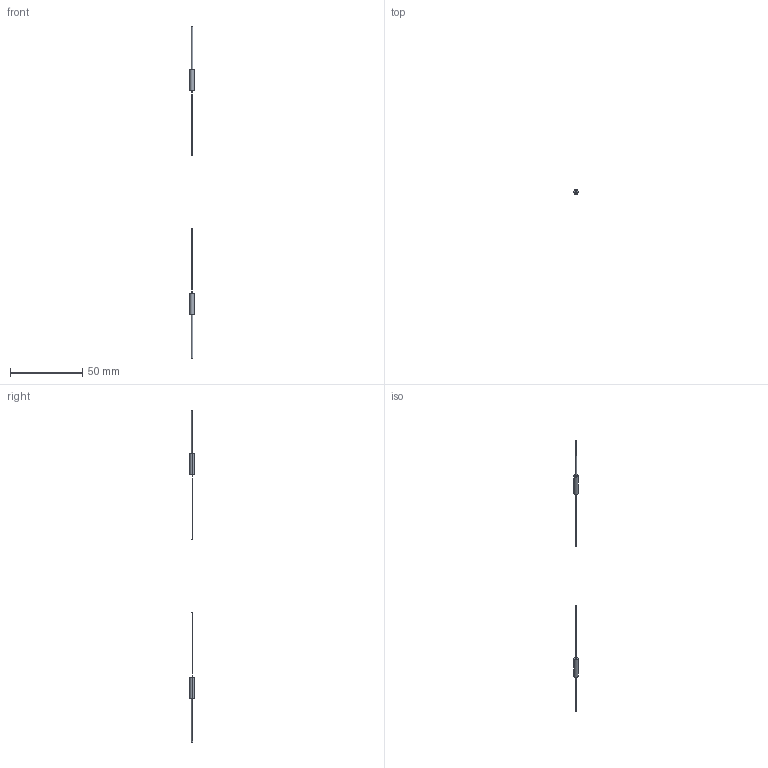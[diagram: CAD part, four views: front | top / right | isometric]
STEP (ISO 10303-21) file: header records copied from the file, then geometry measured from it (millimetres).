
FILE_DESCRIPTION (( 'STEP AP203' ), '1' );
FILE_NAME ('FQ-76F.STEP', '2020-11-03T07:13:11', ( '' ), ( '' ), 'SwSTEP 2.0', 'SolidWorks 2020', '' );
FILE_SCHEMA (( 'CONFIG_CONTROL_DESIGN' ));
Length unit declared in the file: millimetre
Products named in the file (3): FQ-76F_T; FQ-76F_R; FQ-76F
Assembly tree (2 placements, depth 2):
  FQ-76F
    FQ-76F_T
    FQ-76F_R
Bounding box: 3 x 3 x 230 mm (x, y, z)
Volume: 270.5 mm3; surface area: 612.9 mm2
Topology: 2 solids, 2 shells, 32 faces, 60 edges, 40 vertices
Faces by surface type: cylinder 20, plane 12
Entity records: 1129 total; most frequent: DIRECTION 174, CARTESIAN_POINT 137, ORIENTED_EDGE 120, AXIS2_PLACEMENT_3D 77, EDGE_CURVE 60, EDGE_LOOP 40, CIRCLE 40, VERTEX_POINT 40
